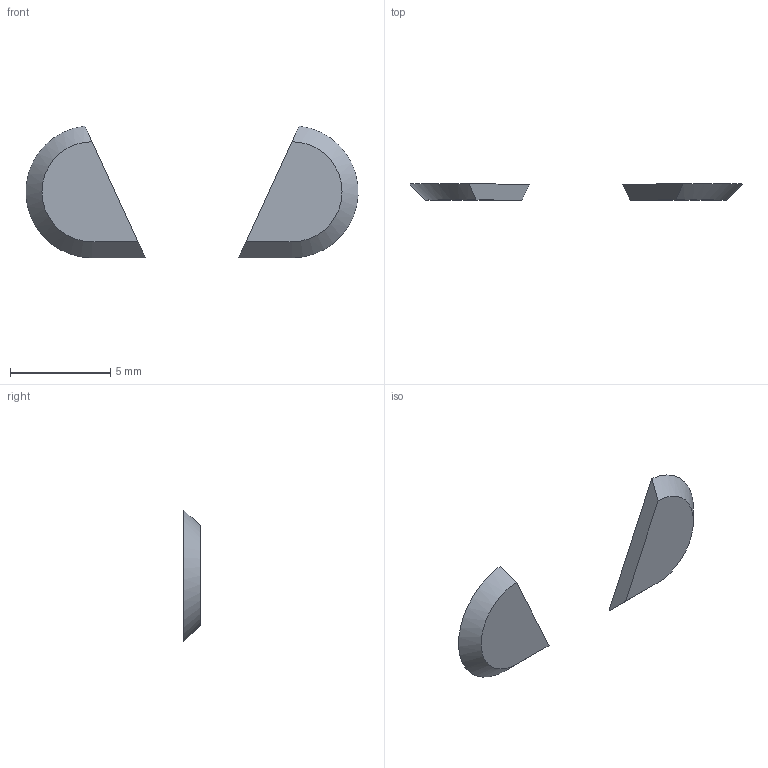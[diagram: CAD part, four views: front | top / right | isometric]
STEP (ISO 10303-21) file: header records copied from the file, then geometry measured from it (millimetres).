
FILE_DESCRIPTION(/* description */ ('STEP AP242','CAx-IF Rec.Pracs.---Representation and Presentation of Product Manufacturing Information (PMI)---4.0---2014-10-13','CAx-IF Rec.Pracs.---3D Tessellated Geometry---0.4---2014-09-14','2;1'),/* implementation_level */ '2;1');
FILE_NAME(/* name */ '649a8fb704a6637e630d4e8f',/* time_stamp */ '2023-06-27T07:28:56Z',/* author */ (''),/* organization */ (''),/* preprocessor_version */ 'ST-DEVELOPER v19.4',/* originating_system */ ' ',/* authorisation */ ' ');
FILE_SCHEMA (('AP242_MANAGED_MODEL_BASED_3D_ENGINEERING_MIM_LF { 1 0 10303 442 1 1 4 }'));
Length unit declared in the file: metre
Products named in the file (2): Alignment Guide Side Horizontal 1; Alignment Guide Side Horizontal 2
Bounding box: 16.59 x 0.8 x 6.58 mm (x, y, z)
Volume: 31.9 mm3; surface area: 116.5 mm2
Topology: 2 solids, 2 shells, 10 faces, 18 edges, 12 vertices
Faces by surface type: plane 8, cone 2
Entity records: 295 total; most frequent: CARTESIAN_POINT 48, DIRECTION 44, ORIENTED_EDGE 36, EDGE_CURVE 18, AXIS2_PLACEMENT_3D 16, VERTEX_POINT 12, LINE 12, VECTOR 12
